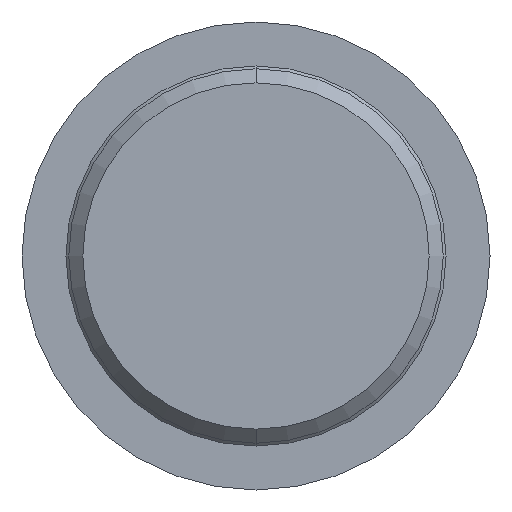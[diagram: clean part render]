
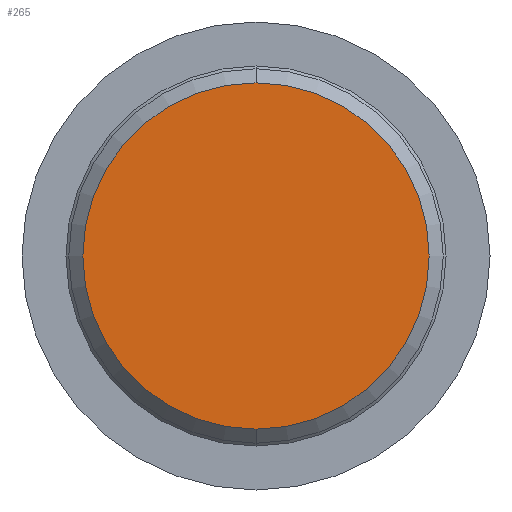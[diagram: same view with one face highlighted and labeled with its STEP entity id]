
A CAD part, front view. The second image highlights one B-rep face of the part: STEP entity #265.
In plain terms, the highlighted planar face has unit normal (0, -1, 0).
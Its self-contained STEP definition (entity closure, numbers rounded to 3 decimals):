
#1 = DIRECTION ( 'NONE',  ( 0., 1., 0. ) ) ;
#84 = ORIENTED_EDGE ( 'NONE', *, *, #757, .F. ) ;
#86 = VERTEX_POINT ( 'NONE', #180 ) ;
#140 = PLANE ( 'NONE',  #166 ) ;
#166 = AXIS2_PLACEMENT_3D ( 'NONE', #272, #575, #740 ) ;
#180 = CARTESIAN_POINT ( 'NONE',  ( 0., 0., -9.25 ) ) ;
#228 = DIRECTION ( 'NONE',  ( 0., 1., 0. ) ) ;
#265 = ADVANCED_FACE ( 'NONE', ( #326 ), #140, .F. ) ;
#272 = CARTESIAN_POINT ( 'NONE',  ( 9.25, 0., 0. ) ) ;
#324 = EDGE_LOOP ( 'NONE', ( #84, #616 ) ) ;
#326 = FACE_OUTER_BOUND ( 'NONE', #324, .T. ) ;
#337 = EDGE_CURVE ( 'NONE', #86, #586, #418, .T. ) ;
#418 = CIRCLE ( 'NONE', #570, 9.25 ) ;
#419 = CIRCLE ( 'NONE', #547, 9.25 ) ;
#476 = CARTESIAN_POINT ( 'NONE',  ( 0., 0., 9.25 ) ) ;
#547 = AXIS2_PLACEMENT_3D ( 'NONE', #705, #228, #587 ) ;
#570 = AXIS2_PLACEMENT_3D ( 'NONE', #707, #1, #650 ) ;
#575 = DIRECTION ( 'NONE',  ( 0., 1., 0. ) ) ;
#586 = VERTEX_POINT ( 'NONE', #476 ) ;
#587 = DIRECTION ( 'NONE',  ( 0., 0., 1. ) ) ;
#616 = ORIENTED_EDGE ( 'NONE', *, *, #337, .F. ) ;
#650 = DIRECTION ( 'NONE',  ( 0., 0., 1. ) ) ;
#705 = CARTESIAN_POINT ( 'NONE',  ( 0., 0., 0. ) ) ;
#707 = CARTESIAN_POINT ( 'NONE',  ( 0., 0., 0. ) ) ;
#740 = DIRECTION ( 'NONE',  ( 0., 0., 1. ) ) ;
#757 = EDGE_CURVE ( 'NONE', #586, #86, #419, .T. ) ;
